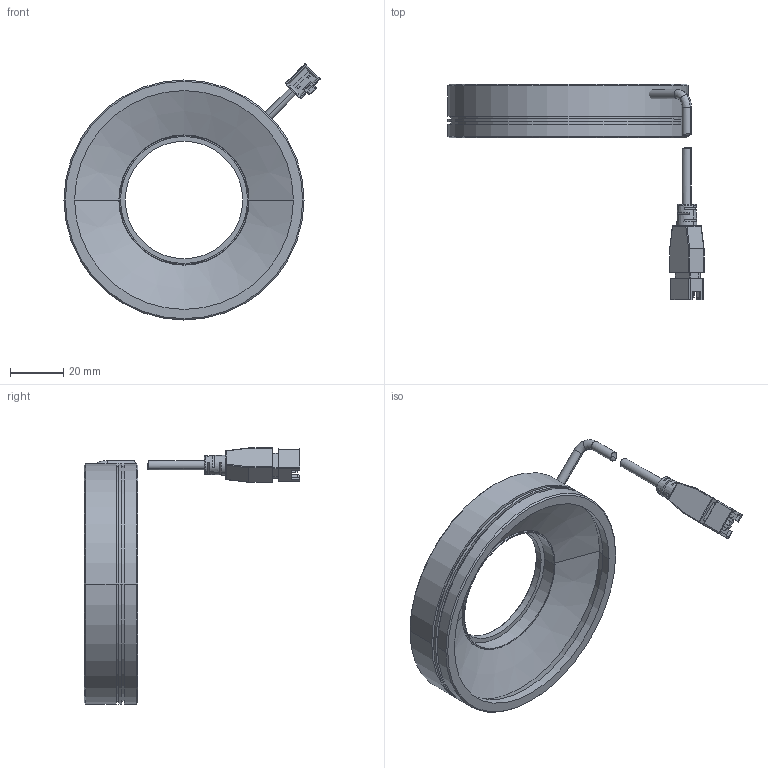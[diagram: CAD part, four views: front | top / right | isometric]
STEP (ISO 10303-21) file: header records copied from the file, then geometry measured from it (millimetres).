
FILE_DESCRIPTION((''),'2;1');
FILE_NAME('MV-LRDS-90-70_ASM','2019-09-19T',('rs-zhongwm'),(''),'PRO/ENGINEER BY PARAMETRIC TECHNOLOGY CORPORATION, 2010100','PRO/ENGINEER BY PARAMETRIC TECHNOLOGY CORPORATION, 2010100','');
FILE_SCHEMA(('CONFIG_CONTROL_DESIGN'));
Length unit declared in the file: millimetre
Products named in the file (5): PRT0030; PRT0031; PRT0032; ASM0020_ASM; MV-LRDS-90-70_ASM
Assembly tree (4 placements, depth 3):
  MV-LRDS-90-70_ASM
    PRT0030
    ASM0020_ASM
      PRT0031
      PRT0032
Bounding box: 96 x 80.8 x 96 mm (x, y, z)
Volume: 60948.2 mm3; surface area: 22734.9 mm2
Topology: 3 solids, 7 shells, 288 faces, 722 edges, 449 vertices
Faces by surface type: plane 141, cylinder 99, cone 20, torus 12, bspline 8, sphere 8
Entity records: 8875 total; most frequent: CARTESIAN_POINT 1857, DIRECTION 1490, ORIENTED_EDGE 1396, EDGE_CURVE 706, AXIS2_PLACEMENT_3D 537, VERTEX_POINT 449, VECTOR 416, LINE 416
